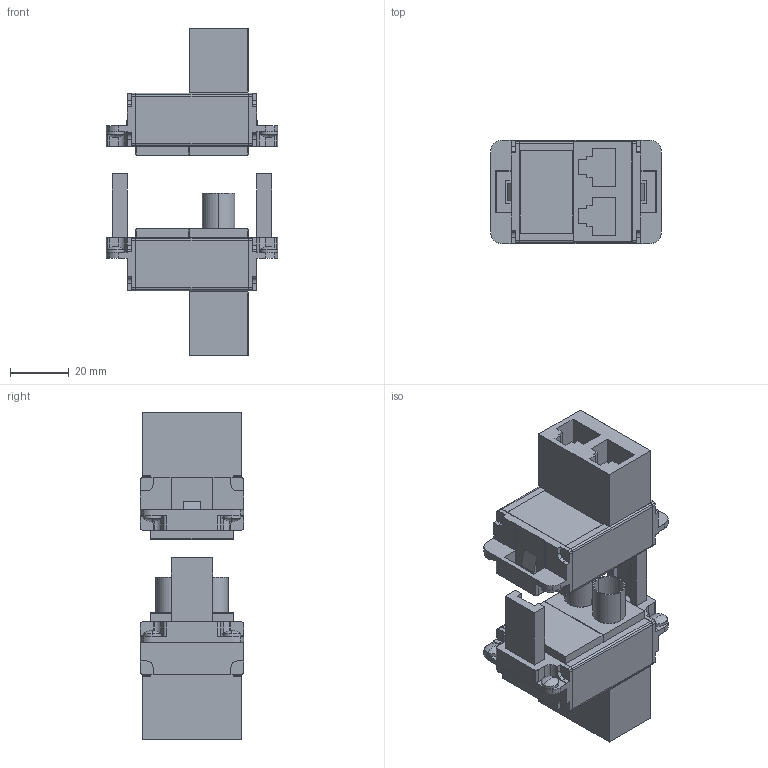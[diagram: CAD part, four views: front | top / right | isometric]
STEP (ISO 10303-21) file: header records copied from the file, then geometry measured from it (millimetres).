
FILE_DESCRIPTION(('CAx-IF Rec.Pracs.---Model Styling and Organization---1.2---2011-12-15','CAx-IF Rec.Pracs.---Geometric and Assembly Validation Properties---4.1---2014-06-16','CAx-IF Rec.Pracs.---PMI Polyline Presentation---2.0---2013-05-24'),'2;1');
FILE_NAME('R5M2WSC26RJ.stp','2021-05-05T11:56:24+03:00',(''),(''),'STEP Interface 4.4 by CT CoreTechnologie','3D_Evolution4.4 by CT CoreTechnologie','');
FILE_SCHEMA(('AUTOMOTIVE_DESIGN { 1 0 10303 214 1 1 1 1 }'));
Length unit declared in the file: millimetre
Products named in the file (5): R5M2WSC26RJ; Staubli 12A Male_-00; 12A 26+RJ45 Male_-00; Staubli 12A FeMale_-00; 12A 26+RJ45 FeMale_-00
Assembly tree (4 placements, depth 3):
  R5M2WSC26RJ
    Staubli 12A Male_-00
      12A 26+RJ45 Male_-00
    Staubli 12A FeMale_-00
      12A 26+RJ45 FeMale_-00
Bounding box: 58 x 35 x 111 mm (x, y, z)
Surface area: 31853.9 mm2 (no closed solid volume)
Topology: 0 solids, 8 shells, 482 faces, 1350 edges, 888 vertices
Faces by surface type: plane 302, cylinder 160, bspline 20
Entity records: 15954 total; most frequent: CARTESIAN_POINT 3137, ORIENTED_EDGE 2668, DIRECTION 2644, EDGE_CURVE 1334, VECTOR 950, LINE 950, VERTEX_POINT 884, AXIS2_PLACEMENT_3D 847
